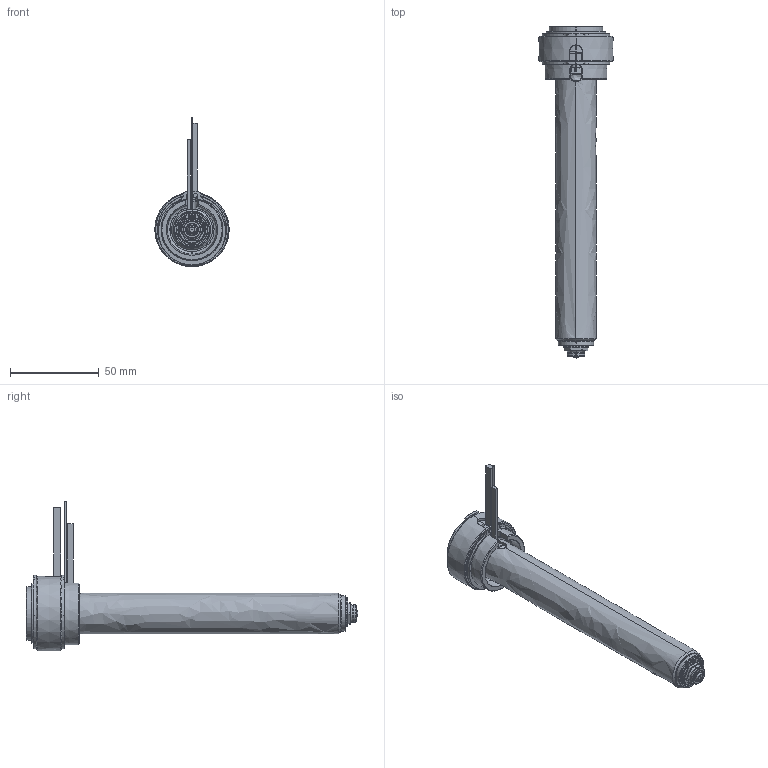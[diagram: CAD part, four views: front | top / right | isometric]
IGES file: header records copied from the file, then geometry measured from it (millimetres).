
Start section: SolidWorks IGES file using analytic representation for surfaces
Global section: file name: C:\Documents and Settings\ws-20\Desktop\TEM\UGER3554-M-A-0 [Øb-0.50  ØC-6.0].IGS; native system: SolidWorks 2012; preprocessor: SolidWorks 2012; author: ws-20; date: 120410.095134; units: millimetre
Bounding box: 42 x 187.4 x 84.4 mm (x, y, z)
Surface area: 51753.2 mm2 (no closed solid volume)
Topology: 0 solids, 0 shells, 195 faces, 3240 edges, 3240 vertices
Faces by surface type: revolution 125, bspline 70
